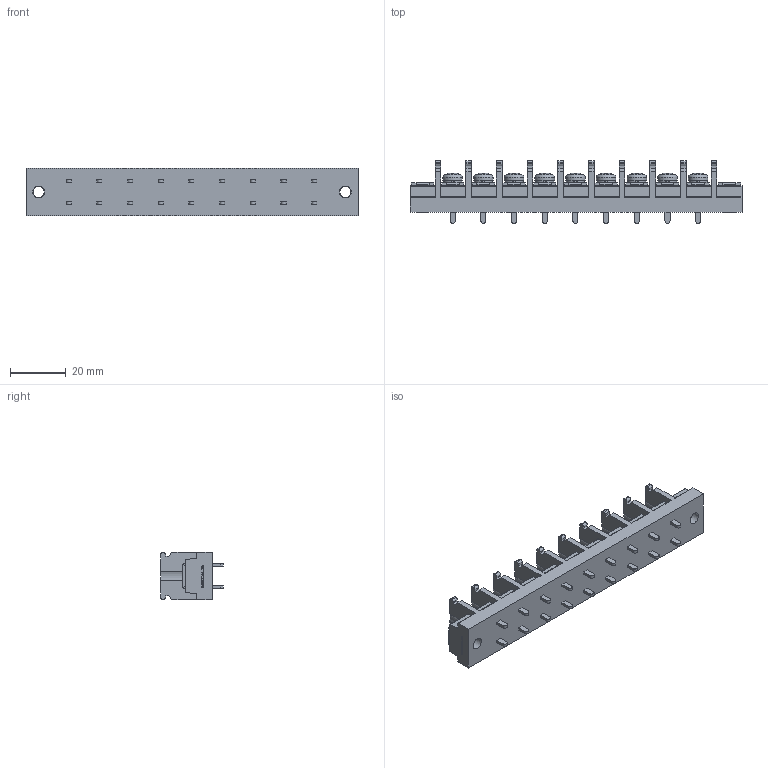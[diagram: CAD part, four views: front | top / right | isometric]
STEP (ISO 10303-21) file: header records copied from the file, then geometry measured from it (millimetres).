
FILE_DESCRIPTION(/* description */ ('Alibre Inc.'),/* implementation_level */ '2;1');
FILE_NAME(/* name */ 'export0',/* time_stamp */ '2015-10-19T19:53:54+09:00',/* author */ (''),/* organization */ (''),/* preprocessor_version */ 'ST-DEVELOPER v14',/* originating_system */ 'Alibre',/* authorisation */ '');
FILE_SCHEMA (('CONFIG_CONTROL_DESIGN'));
Length unit declared in the file: centimetre
Products named in the file (1): ID_1
Bounding box: 119 x 22.5 x 17 mm (x, y, z)
Volume: 21618.2 mm3; surface area: 12257 mm2
Topology: 1 solids, 1 shells, 1164 faces, 3221 edges, 2139 vertices
Faces by surface type: plane 822, cylinder 175, bspline 104, cone 36, torus 18, sphere 9
Full cylindrical faces by diameter (mm): 4 x11, 4.2 x2, 6.5 x9, 7 x9
Entity records: 35883 total; most frequent: CARTESIAN_POINT 7601, ORIENTED_EDGE 6304, DIRECTION 4734, EDGE_CURVE 3152, VECTOR 2238, LINE 2238, VERTEX_POINT 2110, AXIS2_PLACEMENT_3D 1645
